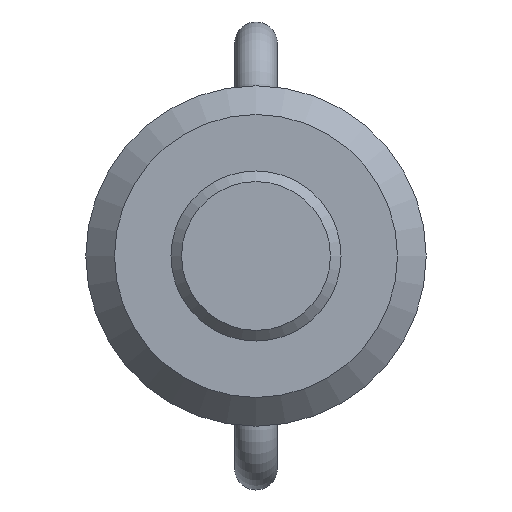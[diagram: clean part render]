
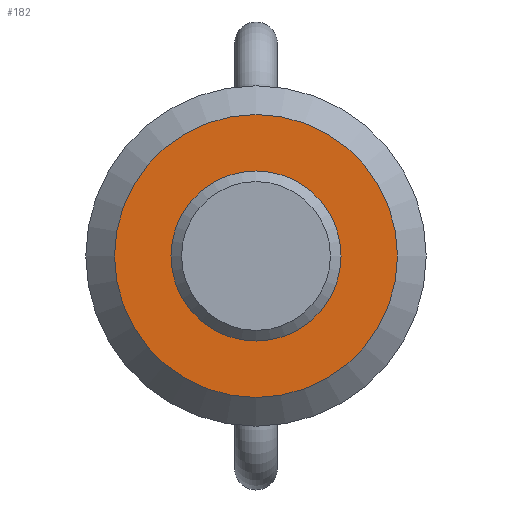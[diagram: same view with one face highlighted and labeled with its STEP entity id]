
A CAD part, front view. The second image highlights one B-rep face of the part: STEP entity #182.
In plain terms, the highlighted planar face has unit normal (0, -1, 0).
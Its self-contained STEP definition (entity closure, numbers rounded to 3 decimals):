
#182 = ADVANCED_FACE( '', ( #248, #249 ), #250, .T. );
#248 = FACE_OUTER_BOUND( '', #363, .T. );
#249 = FACE_BOUND( '', #364, .T. );
#250 = PLANE( '', #365 );
#363 = EDGE_LOOP( '', ( #537 ) );
#364 = EDGE_LOOP( '', ( #538 ) );
#365 = AXIS2_PLACEMENT_3D( '', #539, #540, #541 );
#537 = ORIENTED_EDGE( '', *, *, #737, .T. );
#538 = ORIENTED_EDGE( '', *, *, #738, .F. );
#539 = CARTESIAN_POINT( '', ( 4., 0., 0. ) );
#540 = DIRECTION( '', ( 0., -1., 0. ) );
#541 = DIRECTION( '', ( 0., 0., -1. ) );
#737 = EDGE_CURVE( '', #835, #835, #836, .T. );
#738 = EDGE_CURVE( '', #837, #837, #838, .T. );
#835 = VERTEX_POINT( '', #1031 );
#836 = CIRCLE( '', #1032, 6.65 );
#837 = VERTEX_POINT( '', #1033 );
#838 = CIRCLE( '', #1034, 4. );
#1031 = CARTESIAN_POINT( '', ( 0., 0., -6.65 ) );
#1032 = AXIS2_PLACEMENT_3D( '', #1234, #1235, #1236 );
#1033 = CARTESIAN_POINT( '', ( 0., 0., -4. ) );
#1034 = AXIS2_PLACEMENT_3D( '', #1237, #1238, #1239 );
#1234 = CARTESIAN_POINT( '', ( 0., 0., 0. ) );
#1235 = DIRECTION( '', ( 0., -1., 0. ) );
#1236 = DIRECTION( '', ( 0., 0., -1. ) );
#1237 = CARTESIAN_POINT( '', ( 0., 0., 0. ) );
#1238 = DIRECTION( '', ( 0., -1., 0. ) );
#1239 = DIRECTION( '', ( 0., 0., -1. ) );
